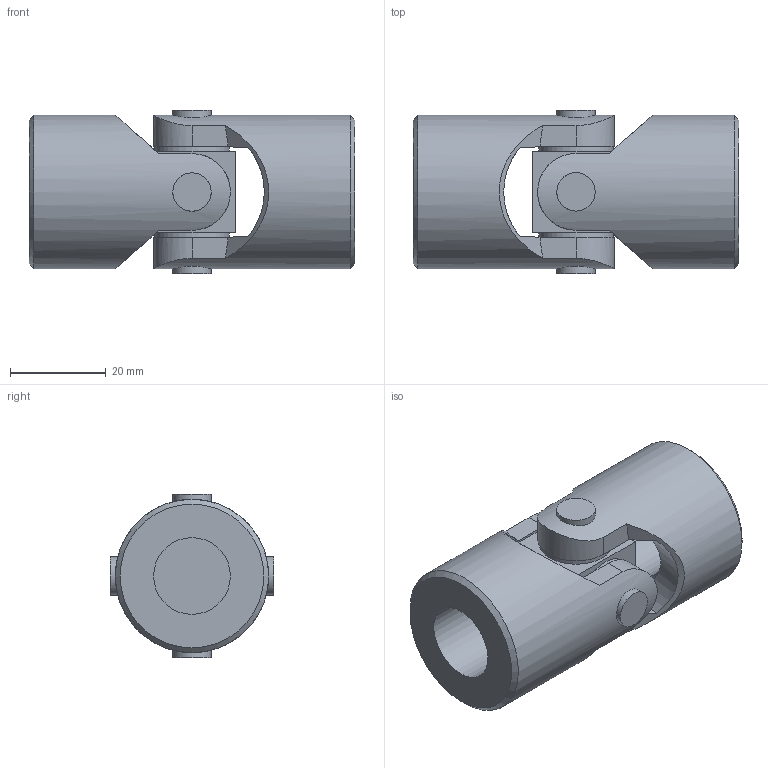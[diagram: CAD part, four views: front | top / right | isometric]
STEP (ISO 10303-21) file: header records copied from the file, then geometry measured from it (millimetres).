
FILE_DESCRIPTION(/* description */ (''),/* implementation_level */ '2;1');
FILE_NAME(/* name */ '\\SRV2016\societa\Stefano\Disegni 3D\0Catalogo 3D\13Singoli X\Ø32_1X_SX0S1600.stp',/* time_stamp */ '2023-05-12T15:54:06+02:00',/* author */ ('acquisti'),/* organization */ (''),/* preprocessor_version */ 'ST-DEVELOPER v15.6',/* originating_system */ 'Autodesk Inventor 2015',/* authorisation */ '');
FILE_SCHEMA (('AUTOMOTIVE_DESIGN { 1 0 10303 214 3 1 1 }'));
Length unit declared in the file: millimetre
Products named in the file (3): 1XA SFE; 1X MOS; Ø32_1X_SX0S1600
Assembly tree (3 placements, depth 2):
  Ø32_1X_SX0S1600
    1XA SFE
    1X MOS  x2
Bounding box: 68 x 34.1 x 34.1 mm (x, y, z)
Volume: 37843.2 mm3; surface area: 13747.3 mm2
Topology: 3 solids, 3 shells, 64 faces, 160 edges, 108 vertices
Faces by surface type: plane 32, cylinder 18, cone 12, torus 2
Full cylindrical faces by diameter (mm): 8 x4, 15.5 x4, 16 x2, 18 x2, 32 x2
Entity records: 1285 total; most frequent: CARTESIAN_POINT 412, DIRECTION 168, ORIENTED_EDGE 152, EDGE_CURVE 76, AXIS2_PLACEMENT_3D 72, EDGE_LOOP 58, VERTEX_POINT 58, FACE_OUTER_BOUND 39
